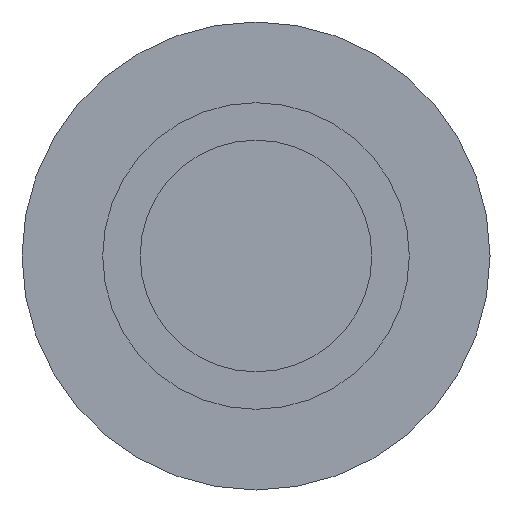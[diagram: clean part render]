
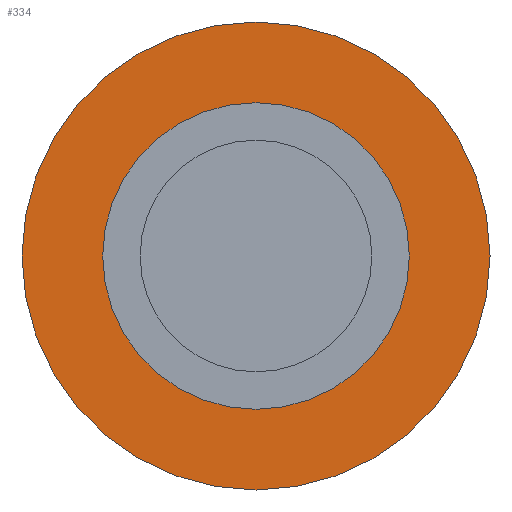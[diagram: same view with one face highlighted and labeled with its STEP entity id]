
A CAD part, front view. The second image highlights one B-rep face of the part: STEP entity #334.
In plain terms, the highlighted planar face has unit normal (0, -1, 0).
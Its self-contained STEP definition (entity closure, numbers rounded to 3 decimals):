
#4 = FACE_BOUND ( 'NONE', #402, .T. ) ;
#7 = DIRECTION ( 'NONE',  ( 0., 1., 0. ) ) ;
#26 = AXIS2_PLACEMENT_3D ( 'NONE', #230, #325, #139 ) ;
#28 = PLANE ( 'NONE',  #129 ) ;
#30 = ORIENTED_EDGE ( 'NONE', *, *, #179, .F. ) ;
#35 = VERTEX_POINT ( 'NONE', #75 ) ;
#38 = CARTESIAN_POINT ( 'NONE',  ( 0., 0., 0. ) ) ;
#45 = DIRECTION ( 'NONE',  ( 0., 1., 0. ) ) ;
#51 = EDGE_CURVE ( 'NONE', #35, #135, #311, .T. ) ;
#56 = CIRCLE ( 'NONE', #190, 13.1 ) ;
#61 = VERTEX_POINT ( 'NONE', #223 ) ;
#68 = DIRECTION ( 'NONE',  ( 0., 1., 0. ) ) ;
#69 = EDGE_CURVE ( 'NONE', #135, #35, #56, .T. ) ;
#75 = CARTESIAN_POINT ( 'NONE',  ( 0., 0., 13.1 ) ) ;
#88 = CIRCLE ( 'NONE', #170, 20. ) ;
#98 = ORIENTED_EDGE ( 'NONE', *, *, #161, .F. ) ;
#111 = DIRECTION ( 'NONE',  ( 0., 0., -1. ) ) ;
#129 = AXIS2_PLACEMENT_3D ( 'NONE', #273, #148, #111 ) ;
#135 = VERTEX_POINT ( 'NONE', #231 ) ;
#137 = DIRECTION ( 'NONE',  ( 0., 0., 1. ) ) ;
#139 = DIRECTION ( 'NONE',  ( 0., 0., 1. ) ) ;
#148 = DIRECTION ( 'NONE',  ( 0., -1., 0. ) ) ;
#161 = EDGE_CURVE ( 'NONE', #61, #381, #88, .T. ) ;
#170 = AXIS2_PLACEMENT_3D ( 'NONE', #361, #45, #174 ) ;
#174 = DIRECTION ( 'NONE',  ( 0., 0., 1. ) ) ;
#179 = EDGE_CURVE ( 'NONE', #381, #61, #182, .T. ) ;
#182 = CIRCLE ( 'NONE', #26, 20. ) ;
#187 = CARTESIAN_POINT ( 'NONE',  ( 0., 0., 20. ) ) ;
#190 = AXIS2_PLACEMENT_3D ( 'NONE', #290, #68, #289 ) ;
#223 = CARTESIAN_POINT ( 'NONE',  ( 0., 0., -20. ) ) ;
#230 = CARTESIAN_POINT ( 'NONE',  ( 0., 0., 0. ) ) ;
#231 = CARTESIAN_POINT ( 'NONE',  ( 0., 0., -13.1 ) ) ;
#244 = FACE_OUTER_BOUND ( 'NONE', #278, .T. ) ;
#248 = AXIS2_PLACEMENT_3D ( 'NONE', #38, #7, #137 ) ;
#257 = ORIENTED_EDGE ( 'NONE', *, *, #51, .T. ) ;
#273 = CARTESIAN_POINT ( 'NONE',  ( -13.1, 0., 0. ) ) ;
#278 = EDGE_LOOP ( 'NONE', ( #30, #98 ) ) ;
#289 = DIRECTION ( 'NONE',  ( 0., 0., 1. ) ) ;
#290 = CARTESIAN_POINT ( 'NONE',  ( 0., 0., 0. ) ) ;
#291 = ORIENTED_EDGE ( 'NONE', *, *, #69, .T. ) ;
#311 = CIRCLE ( 'NONE', #248, 13.1 ) ;
#325 = DIRECTION ( 'NONE',  ( 0., 1., 0. ) ) ;
#334 = ADVANCED_FACE ( 'NONE', ( #4, #244 ), #28, .T. ) ;
#361 = CARTESIAN_POINT ( 'NONE',  ( 0., 0., 0. ) ) ;
#381 = VERTEX_POINT ( 'NONE', #187 ) ;
#402 = EDGE_LOOP ( 'NONE', ( #257, #291 ) ) ;
